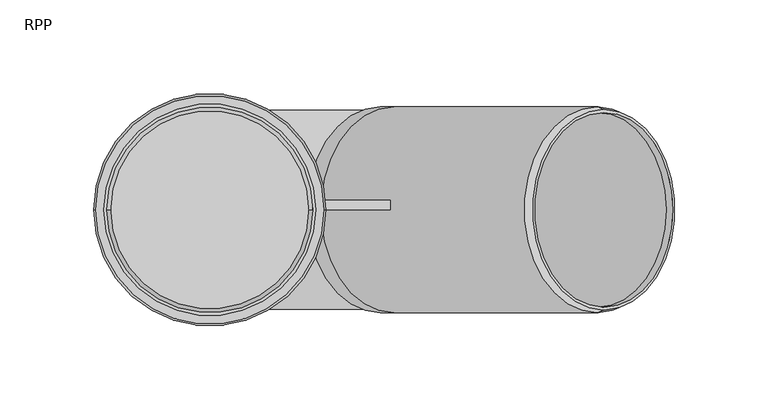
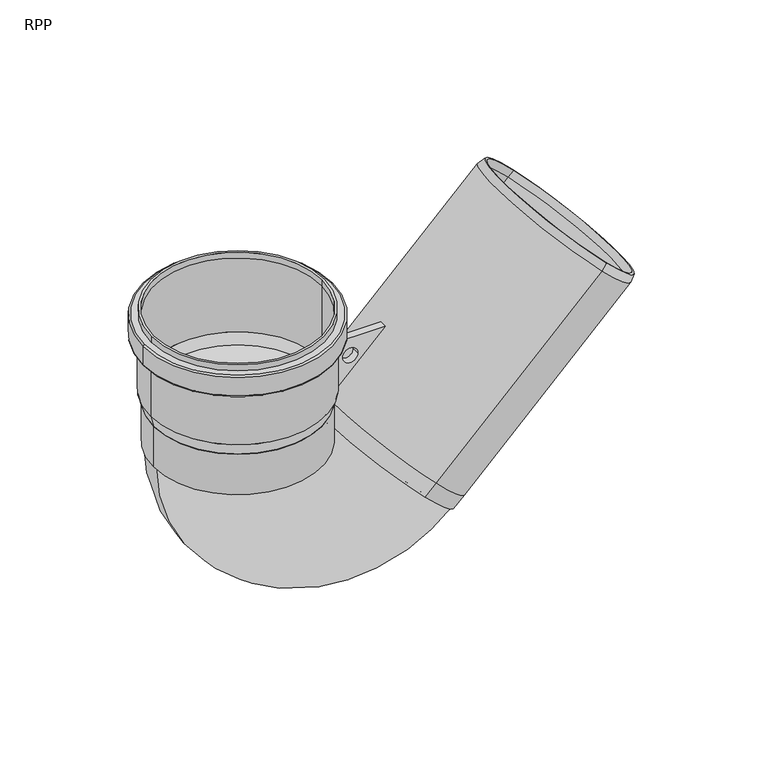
"""IFC4 building model written with IfcOpenShell, lengths in millimetres: pipe fitting geometry, RAUPIANO PLUS P-Trap siphon : RPP."""

from ifc_helpers import new_model, si_unit, point, frame, frame_2d, origin, origin_with_axes, origin_2d, place, context, project, spatial, polyline, circle_curve, ellipse_curve, trimmed, segment, composite_curve, outline, extrude, source, transform, mapped, element, save
from ifc_brep_helpers import plane_surface, cylinder_surface, revolved_surface, advanced_brep


def rpp_a7b66462(model_context):
    return source(origin(), model_context, "Body", "SolidModel", [
        extrude(outline(polyline([(174.3452307, 55.0), (132.7817459, 55.0), (174.3452307, 96.5634848), (174.3452307, 55.0)]), holes=[composite_curve([segment(trimmed(circle_curve(frame_2d((162.3507979, 73.706149)), 5.0), [point((162.3507979, 68.7061491))], [point((162.3507979, 78.706149))], True, "CARTESIAN"), True, "CONTINUOUS"), segment(trimmed(circle_curve(frame_2d((162.3507979, 73.706149)), 5.0), [point((162.3507979, 78.706149))], [point((162.3507979, 68.7061491))], True, "CARTESIAN"), True, "CONTINUOUS")], self_intersect=False)]), frame((0.0, 0.0, 0.0), z_axis=(0.0, 1.0, 0.0), x_axis=(0.0, 0.0, 1.0)), (0.0, 0.0, 1.0), 5.0),
        advanced_brep(
        [(-53.5, 0.0, 130.0), (53.5, 0.0, 130.0), (130.013979, 0.0, 53.986021), (54.3535534, 0.0, 129.6464466)],
        [
            (0, 1, circle_curve(frame((0.0, 0.0, 130.0), z_axis=(0.0, 0.0, 1.0), x_axis=(1.0, 0.0, 0.0)), 53.5)),
            (1, 0, circle_curve(frame((0.0, 0.0, 130.0), z_axis=(0.0, 0.0, 1.0), x_axis=(1.0, 0.0, 0.0)), 53.5)),
            (2, 3, circle_curve(frame((92.1837662, 0.0, 91.8162338), z_axis=(0.707106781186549, 0.0, 0.707106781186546), x_axis=(-0.707106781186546, 0.0, 0.707106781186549)), 53.5)),
            (3, 2, circle_curve(frame((92.1837662, 0.0, 91.8162338), z_axis=(0.707106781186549, 0.0, 0.707106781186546), x_axis=(-0.707106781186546, 0.0, 0.707106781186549)), 53.5)),
            (2, 0, circle_curve(frame((54.0, 0.0, 130.0), z_axis=(0.0, 1.0, 0.0), x_axis=(-1.0, 0.0, 0.0)), 107.5)),
            (1, 3, circle_curve(frame((54.0, 0.0, 130.0), z_axis=(0.0, -1.0, 0.0), x_axis=(-1.0, 0.0, 0.0)), 0.5)),
        ],
        [
            plane_surface(frame((0.0, 0.0, 130.0), z_axis=(0.0, 0.0, 1.0), x_axis=(0.0, 1.0, 0.0))),
            plane_surface(frame((92.1837662, 0.0, 91.8162338), z_axis=(0.7071067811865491, 0.0, 0.707106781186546), x_axis=(0.0, 1.0, 0.0))),
            revolved_surface(trimmed(ellipse_curve(frame((0.0, 0.0, 130.0), z_axis=(0.0, 0.0, -1.0), x_axis=(1.0, 0.0, 0.0)), 53.5, 53.5), [point((-53.5, 0.0, 130.0))], [point((53.5, 0.0, 130.0))], True, "CARTESIAN"), (54.0, 0.0, 130.0), (0.0, 1.0, 0.0)),
            revolved_surface(trimmed(ellipse_curve(frame((0.0, 0.0, 130.0), z_axis=(0.0, 0.0, -1.0), x_axis=(1.0, 0.0, 0.0)), 53.5, 53.5), [point((53.5, 0.0, 130.0))], [point((-53.5, 0.0, 130.0))], True, "CARTESIAN"), (54.0, 0.0, 130.0), (0.0, 1.0, 0.0)),
        ],
        [
            (0, [[1, 2]]),
            (1, [[3, 4]]),
            (2, [[-3, 5, -2, 6]]),
            (3, [[-4, -6, -1, -5]]),
        ],
    ),
        advanced_brep(
        [(91.2167748, 55.0, 91.2167748), (98.2878426, 55.0, 98.2878426), (98.2878426, -55.0, 98.2878426), (91.2167748, -55.0, 91.2167748), (98.2878426, 52.0, 98.2878426), (91.2167748, 52.0, 91.2167748), (91.2167748, -52.0, 91.2167748), (98.2878426, -52.0, 98.2878426), (207.1822869, 52.0, 207.1822869), (207.1822869, -52.0, 207.1822869), (210.7178208, 52.0, 210.7178208), (210.7178208, -52.0, 210.7178208), (207.1822869, 55.0, 207.1822869), (210.7178208, 53.660254, 210.7178208), (210.7178208, -53.660254, 210.7178208), (207.1822869, -55.0, 207.1822869)],
        [
            (0, 1),
            (1, 2, circle_curve(frame((98.2878426, 0.0, 98.2878426), z_axis=(-0.7071067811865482, 0.0, -0.7071067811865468), x_axis=(0.0, -1.0, 0.0)), 55.0)),
            (2, 3),
            (3, 0, circle_curve(frame((91.2167748, 0.0, 91.2167748), z_axis=(0.7071067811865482, 0.0, 0.7071067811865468), x_axis=(0.0, -1.0, 0.0)), 55.0)),
            (4, 5),
            (5, 6, circle_curve(frame((91.2167748, 0.0, 91.2167748), z_axis=(-0.7071067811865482, 0.0, -0.7071067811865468), x_axis=(0.0, -1.0, 0.0)), 52.0)),
            (6, 7),
            (7, 4, circle_curve(frame((98.2878426, 0.0, 98.2878426), z_axis=(0.7071067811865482, 0.0, 0.7071067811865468), x_axis=(0.0, -1.0, 0.0)), 52.0)),
            (8, 4),
            (7, 9),
            (9, 8, circle_curve(frame((207.1822869, 0.0, 207.1822869), z_axis=(0.7071067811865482, 0.0, 0.7071067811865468), x_axis=(0.0, -1.0, 0.0)), 52.0)),
            (10, 8),
            (9, 11),
            (11, 10, circle_curve(frame((210.7178208, 0.0, 210.7178208), z_axis=(0.7071067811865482, 0.0, 0.7071067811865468), x_axis=(0.0, -1.0, 0.0)), 52.0)),
            (12, 13),
            (13, 14, circle_curve(frame((210.7178208, 0.0, 210.7178208), z_axis=(-0.7071067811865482, 0.0, -0.7071067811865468), x_axis=(0.0, -1.0, 0.0)), 53.660254)),
            (14, 15),
            (15, 12, circle_curve(frame((207.1822869, 0.0, 207.1822869), z_axis=(0.7071067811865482, 0.0, 0.7071067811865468), x_axis=(0.0, -1.0, 0.0)), 55.0)),
            (1, 12),
            (15, 2),
            (2, 1, circle_curve(frame((98.2878426, 0.0, 98.2878426), z_axis=(-0.7071067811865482, 0.0, -0.7071067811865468), x_axis=(0.0, 1.0, 0.0)), 55.0)),
            (0, 3, circle_curve(frame((91.2167748, 0.0, 91.2167748), z_axis=(0.7071067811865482, 0.0, 0.7071067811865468), x_axis=(0.0, 1.0, 0.0)), 55.0)),
            (5, 6, circle_curve(frame((91.2167748, 0.0, 91.2167748), z_axis=(0.7071067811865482, 0.0, 0.7071067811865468), x_axis=(0.0, 1.0, 0.0)), 52.0)),
            (4, 7, circle_curve(frame((98.2878426, 0.0, 98.2878426), z_axis=(0.7071067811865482, 0.0, 0.7071067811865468), x_axis=(0.0, 1.0, 0.0)), 52.0)),
            (8, 9, circle_curve(frame((207.1822869, 0.0, 207.1822869), z_axis=(0.7071067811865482, 0.0, 0.7071067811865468), x_axis=(0.0, 1.0, 0.0)), 52.0)),
            (10, 11, circle_curve(frame((210.7178208, 0.0, 210.7178208), z_axis=(0.7071067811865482, 0.0, 0.7071067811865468), x_axis=(0.0, 1.0, 0.0)), 52.0)),
            (13, 14, circle_curve(frame((210.7178208, 0.0, 210.7178208), z_axis=(0.7071067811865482, 0.0, 0.7071067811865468), x_axis=(0.0, 1.0, 0.0)), 53.660254)),
            (12, 15, circle_curve(frame((207.1822869, 0.0, 207.1822869), z_axis=(0.7071067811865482, 0.0, 0.7071067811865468), x_axis=(0.0, 1.0, 0.0)), 55.0)),
        ],
        [
            cylinder_surface(frame((0.0, 0.0, 0.0), z_axis=(-0.7071067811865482, 0.0, -0.7071067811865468), x_axis=(0.0, -1.0, 0.0)), 55.0),
            revolved_surface(polyline([(91.2167748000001, -52.0, 91.21677479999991), (98.2878426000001, -52.0, 98.28784259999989)]), (0.0, 0.0, 0.0), (-0.7071067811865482, 0.0, -0.7071067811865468)),
            revolved_surface(polyline([(98.2878426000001, -52.0, 98.28784259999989), (207.18228690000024, -52.0, 207.1822868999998)]), (0.0, 0.0, 0.0), (-0.7071067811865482, 0.0, -0.7071067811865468)),
            revolved_surface(polyline([(207.18228690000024, -52.0, 207.1822868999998), (210.7178208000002, -52.0, 210.71782079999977)]), (0.0, 0.0, 0.0), (-0.7071067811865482, 0.0, -0.7071067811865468)),
            revolved_surface(polyline([(210.7178208, -53.660254, 210.7178208), (207.1822869, -55.0, 207.1822869)]), (0.0, 0.0, 0.0), (-0.7071067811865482, 0.0, -0.7071067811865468)),
            cylinder_surface(frame((0.0, 0.0, 0.0), z_axis=(-0.7071067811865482, 0.0, -0.7071067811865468), x_axis=(0.0, 1.0, 0.0)), 55.0),
            plane_surface(frame((91.2167748, 0.0, 91.2167748), z_axis=(-0.7071067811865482, 0.0, -0.7071067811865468), x_axis=(0.0, 1.0, 0.0))),
            revolved_surface(polyline([(91.2167748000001, 52.0, 91.21677479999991), (98.2878426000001, 52.0, 98.28784259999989)]), (0.0, 0.0, 0.0), (-0.7071067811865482, 0.0, -0.7071067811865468)),
            revolved_surface(polyline([(98.2878426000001, 52.0, 98.28784259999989), (207.18228690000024, 52.0, 207.1822868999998)]), (0.0, 0.0, 0.0), (-0.7071067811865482, 0.0, -0.7071067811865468)),
            revolved_surface(polyline([(207.18228690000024, 52.0, 207.1822868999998), (210.7178208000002, 52.0, 210.71782079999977)]), (0.0, 0.0, 0.0), (-0.7071067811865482, 0.0, -0.7071067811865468)),
            plane_surface(frame((210.7178208, 0.0, 210.7178208), z_axis=(0.7071067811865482, 0.0, 0.7071067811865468), x_axis=(0.0, 1.0, 0.0))),
            revolved_surface(polyline([(210.7178208, 53.660254, 210.7178208), (207.1822869, 55.0, 207.1822869)]), (0.0, 0.0, 0.0), (-0.7071067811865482, 0.0, -0.7071067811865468)),
        ],
        [
            (0, [[1, 2, 3, 4]]),
            (1, [[5, 6, 7, 8]]),
            (2, [[9, -8, 10, 11]]),
            (3, [[12, -11, 13, 14]]),
            (4, [[15, 16, 17, 18]]),
            (0, [[19, -18, 20, -2]]),
            (5, [[-3, 21, -1, 22]]),
            (6, [[-4, -22], [-6, 23]]),
            (7, [[-7, -23, -5, 24]]),
            (8, [[-10, -24, -9, 25]]),
            (9, [[-13, -25, -12, 26]]),
            (10, [[-16, 27], [-14, -26]]),
            (11, [[-17, -27, -15, 28]]),
            (5, [[-20, -28, -19, -21]]),
        ],
    ),
        extrude(outline(composite_curve([segment(trimmed(circle_curve(origin_2d(), 55.0), [point((55.0, 0.0))], [point((-55.0, 0.0))], False, "CARTESIAN"), True, "CONTINUOUS"), segment(trimmed(circle_curve(origin_2d(), 55.0), [point((-55.0, 0.0))], [point((55.0, 0.0))], False, "CARTESIAN"), True, "CONTINUOUS")], self_intersect=False)), frame((0.0, 0.0, 130.0), z_axis=(0.0, 0.0, 1.0), x_axis=(1.0, 0.0, 0.0)), (0.0, 0.0, 1.0), 28.0),
        advanced_brep(
        [(57.1435935, 0.0, 202.4), (57.1435935, 0.0, 166.0), (-57.1435935, 0.0, 166.0), (-57.1435935, 0.0, 202.4), (62.1435935, 0.0, 203.4), (61.1435935, 0.0, 202.4), (-61.1435935, 0.0, 202.4), (-62.1435935, 0.0, 203.4), (62.1435935, 0.0, 216.0), (-62.1435935, 0.0, 216.0), (61.1435935, 0.0, 217.0), (-61.1435935, 0.0, 217.0), (56.6076952, 0.0, 221.0), (56.6076952, 0.0, 217.0), (-56.6076952, 0.0, 217.0), (-56.6076952, 0.0, 221.0), (54.9435935, 0.0, 217.0), (54.9435935, 0.0, 221.0), (-54.9435935, 0.0, 221.0), (-54.9435935, 0.0, 217.0), (54.9435935, 0.0, 166.0), (-54.9435935, 0.0, 166.0), (52.8, 0.0, 158.0), (-52.8, 0.0, 158.0), (55.0, 0.0, 158.0), (-55.0, 0.0, 158.0)],
        [
            (0, 1),
            (1, 2, circle_curve(frame((0.0, 0.0, 166.0), z_axis=(0.0, 0.0, 1.0), x_axis=(-1.0, 0.0, 0.0)), 57.1435935)),
            (2, 3),
            (3, 0, circle_curve(frame((0.0, 0.0, 202.4), z_axis=(0.0, 0.0, -1.0), x_axis=(-1.0, 0.0, 0.0)), 57.1435935)),
            (4, 5, circle_curve(frame((61.1435935, 0.0, 203.4), z_axis=(0.0, 1.0, 0.0), x_axis=(0.0, 0.0, 1.0)), 1.0)),
            (5, 6, circle_curve(frame((0.0, 0.0, 202.4), z_axis=(0.0, 0.0, 1.0), x_axis=(-1.0, 0.0, 0.0)), 61.1435935)),
            (6, 7, circle_curve(frame((-61.1435935, 0.0, 203.4), z_axis=(0.0, 1.0, 0.0), x_axis=(0.0, 0.0, 1.0)), 1.0)),
            (7, 4, circle_curve(frame((0.0, 0.0, 203.4), z_axis=(0.0, 0.0, -1.0), x_axis=(-1.0, 0.0, 0.0)), 62.1435935)),
            (8, 4),
            (7, 9),
            (9, 8, circle_curve(frame((0.0, 0.0, 216.0), z_axis=(0.0, 0.0, -1.0), x_axis=(-1.0, 0.0, 0.0)), 62.1435935)),
            (10, 8, circle_curve(frame((61.1435935, 0.0, 216.0), z_axis=(0.0, 1.0, 0.0), x_axis=(0.0, 0.0, 1.0)), 1.0)),
            (9, 11, circle_curve(frame((-61.1435935, 0.0, 216.0), z_axis=(0.0, 1.0, 0.0), x_axis=(0.0, 0.0, 1.0)), 1.0)),
            (11, 10, circle_curve(frame((0.0, 0.0, 217.0), z_axis=(0.0, 0.0, -1.0), x_axis=(-1.0, 0.0, 0.0)), 61.1435935)),
            (12, 13),
            (13, 14, circle_curve(frame((0.0, 0.0, 217.0), z_axis=(0.0, 0.0, 1.0), x_axis=(-1.0, 0.0, 0.0)), 56.6076952)),
            (14, 15),
            (15, 12, circle_curve(frame((0.0, 0.0, 221.0), z_axis=(0.0, 0.0, -1.0), x_axis=(-1.0, 0.0, 0.0)), 56.6076952)),
            (16, 17),
            (17, 18, circle_curve(frame((0.0, 0.0, 221.0), z_axis=(0.0, 0.0, 1.0), x_axis=(-1.0, 0.0, 0.0)), 54.9435935)),
            (18, 19),
            (19, 16, circle_curve(frame((0.0, 0.0, 217.0), z_axis=(0.0, 0.0, -1.0), x_axis=(-1.0, 0.0, 0.0)), 54.9435935)),
            (20, 16),
            (19, 21),
            (21, 20, circle_curve(frame((0.0, 0.0, 166.0), z_axis=(0.0, 0.0, -1.0), x_axis=(-1.0, 0.0, 0.0)), 54.9435935)),
            (22, 20),
            (21, 23),
            (23, 22, circle_curve(frame((0.0, 0.0, 158.0), z_axis=(0.0, 0.0, -1.0), x_axis=(-1.0, 0.0, 0.0)), 52.8)),
            (1, 24),
            (24, 25, circle_curve(frame((0.0, 0.0, 158.0), z_axis=(0.0, 0.0, 1.0), x_axis=(-1.0, 0.0, 0.0)), 55.0)),
            (25, 2),
            (2, 1, circle_curve(frame((0.0, 0.0, 166.0), z_axis=(0.0, 0.0, 1.0), x_axis=(1.0, 0.0, 0.0)), 57.1435935)),
            (0, 3, circle_curve(frame((0.0, 0.0, 202.4), z_axis=(0.0, 0.0, -1.0), x_axis=(1.0, 0.0, 0.0)), 57.1435935)),
            (5, 6, circle_curve(frame((0.0, 0.0, 202.4), z_axis=(0.0, 0.0, -1.0), x_axis=(1.0, 0.0, 0.0)), 61.1435935)),
            (4, 7, circle_curve(frame((0.0, 0.0, 203.4), z_axis=(0.0, 0.0, -1.0), x_axis=(1.0, 0.0, 0.0)), 62.1435935)),
            (8, 9, circle_curve(frame((0.0, 0.0, 216.0), z_axis=(0.0, 0.0, -1.0), x_axis=(1.0, 0.0, 0.0)), 62.1435935)),
            (10, 11, circle_curve(frame((0.0, 0.0, 217.0), z_axis=(0.0, 0.0, -1.0), x_axis=(1.0, 0.0, 0.0)), 61.1435935)),
            (13, 14, circle_curve(frame((0.0, 0.0, 217.0), z_axis=(0.0, 0.0, -1.0), x_axis=(1.0, 0.0, 0.0)), 56.6076952)),
            (12, 15, circle_curve(frame((0.0, 0.0, 221.0), z_axis=(0.0, 0.0, -1.0), x_axis=(1.0, 0.0, 0.0)), 56.6076952)),
            (17, 18, circle_curve(frame((0.0, 0.0, 221.0), z_axis=(0.0, 0.0, -1.0), x_axis=(1.0, 0.0, 0.0)), 54.9435935)),
            (16, 19, circle_curve(frame((0.0, 0.0, 217.0), z_axis=(0.0, 0.0, -1.0), x_axis=(1.0, 0.0, 0.0)), 54.9435935)),
            (20, 21, circle_curve(frame((0.0, 0.0, 166.0), z_axis=(0.0, 0.0, -1.0), x_axis=(1.0, 0.0, 0.0)), 54.9435935)),
            (22, 23, circle_curve(frame((0.0, 0.0, 158.0), z_axis=(0.0, 0.0, -1.0), x_axis=(1.0, 0.0, 0.0)), 52.8)),
            (24, 25, circle_curve(frame((0.0, 0.0, 158.0), z_axis=(0.0, 0.0, -1.0), x_axis=(1.0, 0.0, 0.0)), 55.0)),
        ],
        [
            cylinder_surface(frame((0.0, 0.0, 0.0), z_axis=(0.0, 0.0, 1.0), x_axis=(-1.0, 0.0, 0.0)), 57.1435935),
            revolved_surface(trimmed(ellipse_curve(frame((-61.1435935, 0.0, 203.4), z_axis=(0.0, 1.0, 0.0), x_axis=(0.0, 0.0, 1.0)), 1.0, 1.0), [point((-61.1435935, 0.0, 202.4))], [point((-62.1435935, 0.0, 203.4))], True, "CARTESIAN"), (0.0, 0.0, 0.0), (0.0, 0.0, 1.0)),
            cylinder_surface(frame((0.0, 0.0, 0.0), z_axis=(0.0, 0.0, 1.0), x_axis=(-1.0, 0.0, 0.0)), 62.1435935),
            revolved_surface(trimmed(ellipse_curve(frame((-61.1435935, 0.0, 216.0), z_axis=(0.0, 1.0, 0.0), x_axis=(0.0, 0.0, 1.0)), 1.0, 1.0), [point((-62.1435935, 0.0, 216.0))], [point((-61.1435935, 0.0, 217.0))], True, "CARTESIAN"), (0.0, 0.0, 0.0), (0.0, 0.0, 1.0)),
            cylinder_surface(frame((0.0, 0.0, 0.0), z_axis=(0.0, 0.0, 1.0), x_axis=(-1.0, 0.0, 0.0)), 56.6076952),
            revolved_surface(polyline([(-54.9435935, 0.0, 221.0), (-54.9435935, 0.0, 217.0)]), (0.0, 0.0, 0.0), (0.0, 0.0, 1.0)),
            revolved_surface(polyline([(-54.9435935, 0.0, 217.0), (-54.9435935, 0.0, 166.0)]), (0.0, 0.0, 0.0), (0.0, 0.0, 1.0)),
            revolved_surface(polyline([(-54.9435935, 0.0, 166.0), (-52.8, 0.0, 158.0)]), (0.0, 0.0, 0.0), (0.0, 0.0, 1.0)),
            revolved_surface(polyline([(-55.0, 0.0, 158.0), (-57.1435935, 0.0, 166.0)]), (0.0, 0.0, 0.0), (0.0, 0.0, 1.0)),
            cylinder_surface(origin_with_axes(), 57.1435935),
            plane_surface(frame((0.0, 0.0, 202.4), z_axis=(0.0, 0.0, -1.0), x_axis=(1.0, 0.0, 0.0))),
            revolved_surface(trimmed(ellipse_curve(frame((61.1435935, 0.0, 203.4), z_axis=(0.0, -1.0, 0.0), x_axis=(0.0, 0.0, 1.0)), 1.0, 1.0), [point((61.1435935, 0.0, 202.4))], [point((62.1435935, 0.0, 203.4))], True, "CARTESIAN"), (0.0, 0.0, 0.0), (0.0, 0.0, 1.0)),
            cylinder_surface(origin_with_axes(), 62.1435935),
            revolved_surface(trimmed(ellipse_curve(frame((61.1435935, 0.0, 216.0), z_axis=(0.0, -1.0, 0.0), x_axis=(0.0, 0.0, 1.0)), 1.0, 1.0), [point((62.1435935, 0.0, 216.0))], [point((61.1435935, 0.0, 217.0))], True, "CARTESIAN"), (0.0, 0.0, 0.0), (0.0, 0.0, 1.0)),
            plane_surface(frame((0.0, 0.0, 217.0), z_axis=(0.0, 0.0, 1.0), x_axis=(1.0, 0.0, 0.0))),
            cylinder_surface(origin_with_axes(), 56.6076952),
            plane_surface(frame((0.0, 0.0, 221.0), z_axis=(0.0, 0.0, 1.0), x_axis=(1.0, 0.0, 0.0))),
            revolved_surface(polyline([(54.9435935, 0.0, 221.0), (54.9435935, 0.0, 217.0)]), (0.0, 0.0, 0.0), (0.0, 0.0, 1.0)),
            revolved_surface(polyline([(54.9435935, 0.0, 217.0), (54.9435935, 0.0, 166.0)]), (0.0, 0.0, 0.0), (0.0, 0.0, 1.0)),
            revolved_surface(polyline([(54.9435935, 0.0, 166.0), (52.8, 0.0, 158.0)]), (0.0, 0.0, 0.0), (0.0, 0.0, 1.0)),
            plane_surface(frame((0.0, 0.0, 158.0), z_axis=(0.0, 0.0, -1.0), x_axis=(1.0, 0.0, 0.0))),
            revolved_surface(polyline([(55.0, 0.0, 158.0), (57.1435935, 0.0, 166.0)]), (0.0, 0.0, 0.0), (0.0, 0.0, 1.0)),
        ],
        [
            (0, [[1, 2, 3, 4]]),
            (1, [[5, 6, 7, 8]]),
            (2, [[9, -8, 10, 11]]),
            (3, [[12, -11, 13, 14]]),
            (4, [[15, 16, 17, 18]]),
            (5, [[19, 20, 21, 22]]),
            (6, [[23, -22, 24, 25]]),
            (7, [[26, -25, 27, 28]]),
            (8, [[29, 30, 31, -2]]),
            (9, [[-3, 32, -1, 33]]),
            (10, [[-6, 34], [-4, -33]]),
            (11, [[-7, -34, -5, 35]]),
            (12, [[-10, -35, -9, 36]]),
            (13, [[-13, -36, -12, 37]]),
            (14, [[-14, -37], [-16, 38]]),
            (15, [[-17, -38, -15, 39]]),
            (16, [[-18, -39], [-20, 40]]),
            (17, [[-21, -40, -19, 41]]),
            (18, [[-24, -41, -23, 42]]),
            (19, [[-27, -42, -26, 43]]),
            (20, [[-30, 44], [-28, -43]]),
            (21, [[-31, -44, -29, -32]]),
        ],
    ),
    ])


if __name__ == "__main__":
    model = new_model("IFC4")
    model_context = context("Model", 3, world=origin())
    ifc_project = project(units=[si_unit("LENGTHUNIT", "METRE", prefix="MILLI")], contexts=[model_context])
    site = spatial("IfcSite", under=ifc_project)
    building = spatial("IfcBuilding", under=site)
    placement = place(None, origin())
    rpp_shape = rpp_a7b66462(model_context)
    element("IfcPipeFitting", 1, ObjectType="RAUPIANO PLUS P-Trap siphon : RPP", at=placement, inside=building, context=model_context, shape_type="MappedRepresentation", body=[
        mapped(rpp_shape, transform((0.0, 0.0, 0.0), x_axis=(1.0, 0.0, 0.0), y_axis=(0.0, 1.0, 0.0), z_axis=(0.0, 0.0, 1.0))),
    ])
    save(model, "model.ifc")
